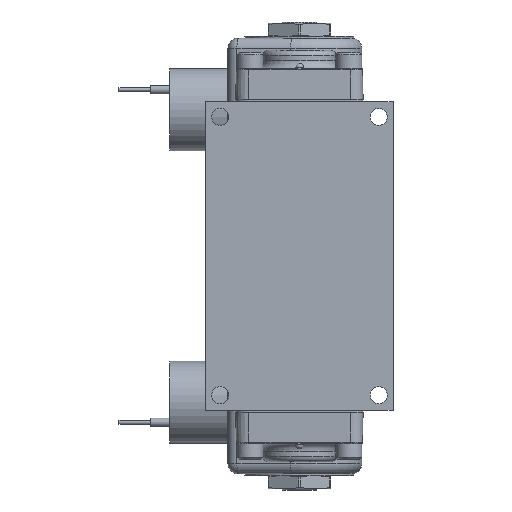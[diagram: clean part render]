
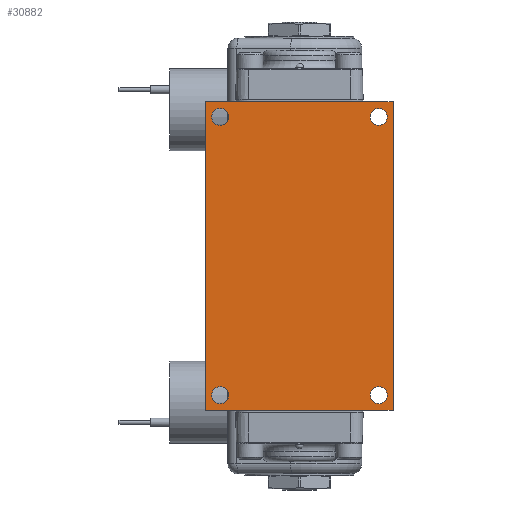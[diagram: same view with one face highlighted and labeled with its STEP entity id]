
A CAD part, front view. The second image highlights one B-rep face of the part: STEP entity #30882.
In plain terms, the highlighted planar face has unit normal (0, -1, 0).
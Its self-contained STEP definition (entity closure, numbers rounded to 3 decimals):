
#1963=LINE('',#53753,#3986);
#1964=LINE('',#53755,#3987);
#1965=LINE('',#53757,#3988);
#1966=LINE('',#53758,#3989);
#3986=VECTOR('',#39969,9.421);
#3987=VECTOR('',#39970,5.715);
#3988=VECTOR('',#39971,9.421);
#3989=VECTOR('',#39972,5.715);
#5764=FACE_BOUND('',#9881,.T.);
#5765=FACE_BOUND('',#9882,.T.);
#5766=FACE_BOUND('',#9883,.T.);
#5767=FACE_BOUND('',#9884,.T.);
#7599=FACE_OUTER_BOUND('',#9880,.T.);
#9880=EDGE_LOOP('',(#23754,#23755,#23756,#23757));
#9881=EDGE_LOOP('',(#23758));
#9882=EDGE_LOOP('',(#23759));
#9883=EDGE_LOOP('',(#23760));
#9884=EDGE_LOOP('',(#23761));
#11930=CIRCLE('',#33781,0.258);
#11931=CIRCLE('',#33782,0.258);
#11932=CIRCLE('',#33783,0.258);
#11933=CIRCLE('',#33784,0.258);
#13877=VERTEX_POINT('',#53751);
#13878=VERTEX_POINT('',#53752);
#13879=VERTEX_POINT('',#53754);
#13880=VERTEX_POINT('',#53756);
#13881=VERTEX_POINT('',#53759);
#13882=VERTEX_POINT('',#53761);
#13883=VERTEX_POINT('',#53763);
#13884=VERTEX_POINT('',#53765);
#17414=EDGE_CURVE('',#13877,#13878,#1963,.T.);
#17415=EDGE_CURVE('',#13879,#13877,#1964,.T.);
#17416=EDGE_CURVE('',#13880,#13879,#1965,.T.);
#17417=EDGE_CURVE('',#13878,#13880,#1966,.T.);
#17418=EDGE_CURVE('',#13881,#13881,#11930,.T.);
#17419=EDGE_CURVE('',#13882,#13882,#11931,.T.);
#17420=EDGE_CURVE('',#13883,#13883,#11932,.T.);
#17421=EDGE_CURVE('',#13884,#13884,#11933,.T.);
#23754=ORIENTED_EDGE('',*,*,#17414,.F.);
#23755=ORIENTED_EDGE('',*,*,#17415,.F.);
#23756=ORIENTED_EDGE('',*,*,#17416,.F.);
#23757=ORIENTED_EDGE('',*,*,#17417,.F.);
#23758=ORIENTED_EDGE('',*,*,#17418,.T.);
#23759=ORIENTED_EDGE('',*,*,#17419,.T.);
#23760=ORIENTED_EDGE('',*,*,#17420,.T.);
#23761=ORIENTED_EDGE('',*,*,#17421,.T.);
#27760=PLANE('',#33780);
#30882=ADVANCED_FACE('',(#7599,#5764,#5765,#5766,#5767),#27760,.F.);
#33780=AXIS2_PLACEMENT_3D('',#53750,#39967,#39968);
#33781=AXIS2_PLACEMENT_3D('',#53760,#39973,#39974);
#33782=AXIS2_PLACEMENT_3D('',#53762,#39975,#39976);
#33783=AXIS2_PLACEMENT_3D('',#53764,#39977,#39978);
#33784=AXIS2_PLACEMENT_3D('',#53766,#39979,#39980);
#39967=DIRECTION('center_axis',(0.,1.,0.));
#39968=DIRECTION('ref_axis',(0.,0.,1.));
#39969=DIRECTION('',(0.,0.,1.));
#39970=DIRECTION('',(-1.,0.,0.));
#39971=DIRECTION('',(0.,0.,-1.));
#39972=DIRECTION('',(1.,0.,0.));
#39973=DIRECTION('center_axis',(0.,1.,0.));
#39974=DIRECTION('ref_axis',(-1.,0.,0.));
#39975=DIRECTION('center_axis',(0.,1.,0.));
#39976=DIRECTION('ref_axis',(-1.,0.,0.));
#39977=DIRECTION('center_axis',(0.,1.,0.));
#39978=DIRECTION('ref_axis',(-1.,0.,0.));
#39979=DIRECTION('center_axis',(0.,1.,0.));
#39980=DIRECTION('ref_axis',(-1.,0.,0.));
#53750=CARTESIAN_POINT('Origin',(0.,-1.636,0.));
#53751=CARTESIAN_POINT('',(-2.858,-1.636,-4.71));
#53752=CARTESIAN_POINT('',(-2.858,-1.636,4.71));
#53753=CARTESIAN_POINT('',(-2.858,-1.636,-4.71));
#53754=CARTESIAN_POINT('',(2.858,-1.636,-4.71));
#53755=CARTESIAN_POINT('',(2.858,-1.636,-4.71));
#53756=CARTESIAN_POINT('',(2.858,-1.636,4.71));
#53757=CARTESIAN_POINT('',(2.858,-1.636,4.71));
#53758=CARTESIAN_POINT('',(-2.858,-1.636,4.71));
#53759=CARTESIAN_POINT('',(-2.163,-1.636,-4.247));
#53760=CARTESIAN_POINT('Origin',(-2.421,-1.636,-4.247));
#53761=CARTESIAN_POINT('',(-2.163,-1.636,4.247));
#53762=CARTESIAN_POINT('Origin',(-2.421,-1.636,4.247));
#53763=CARTESIAN_POINT('',(2.678,-1.636,-4.247));
#53764=CARTESIAN_POINT('Origin',(2.421,-1.636,-4.247));
#53765=CARTESIAN_POINT('',(2.678,-1.636,4.247));
#53766=CARTESIAN_POINT('Origin',(2.421,-1.636,4.247));
